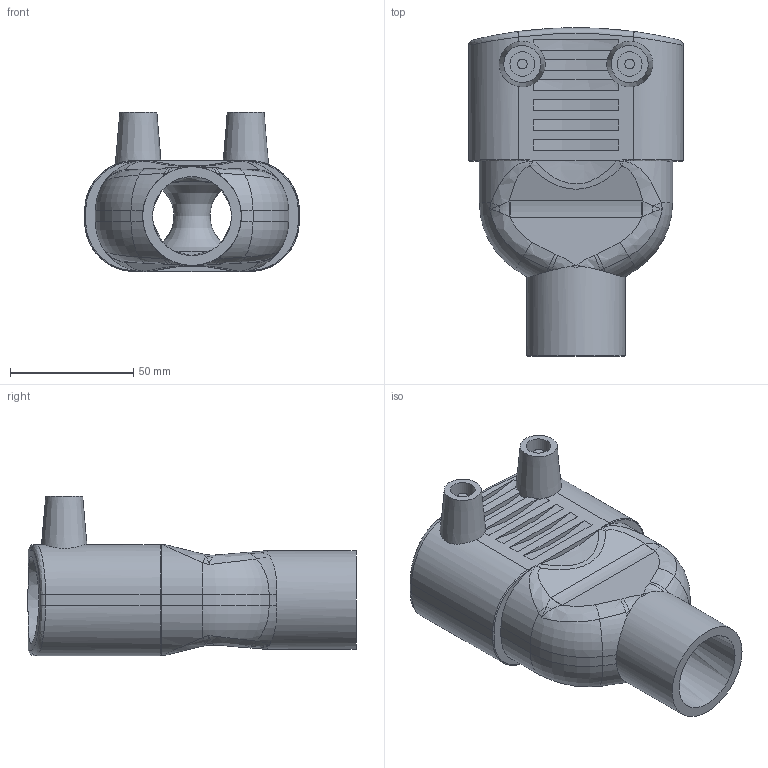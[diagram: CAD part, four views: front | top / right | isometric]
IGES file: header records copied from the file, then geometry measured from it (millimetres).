
Global section: file name: 491904040032.ipt; native system: Autodesk Inventor 2015; preprocessor: unknown; author: KIM; date: 20171106.093914; units: millimetre
Bounding box: 87 x 132.95 x 64.5 mm (x, y, z)
Volume: 189307.1 mm3; surface area: 52589.9 mm2
Topology: 1 solids, 1 shells, 176 faces, 418 edges, 255 vertices
Faces by surface type: plane 52, bspline 52, revolution 42, cylinder 28, cone 2
Full cylindrical faces by diameter (mm): 4 x2, 40 x1
